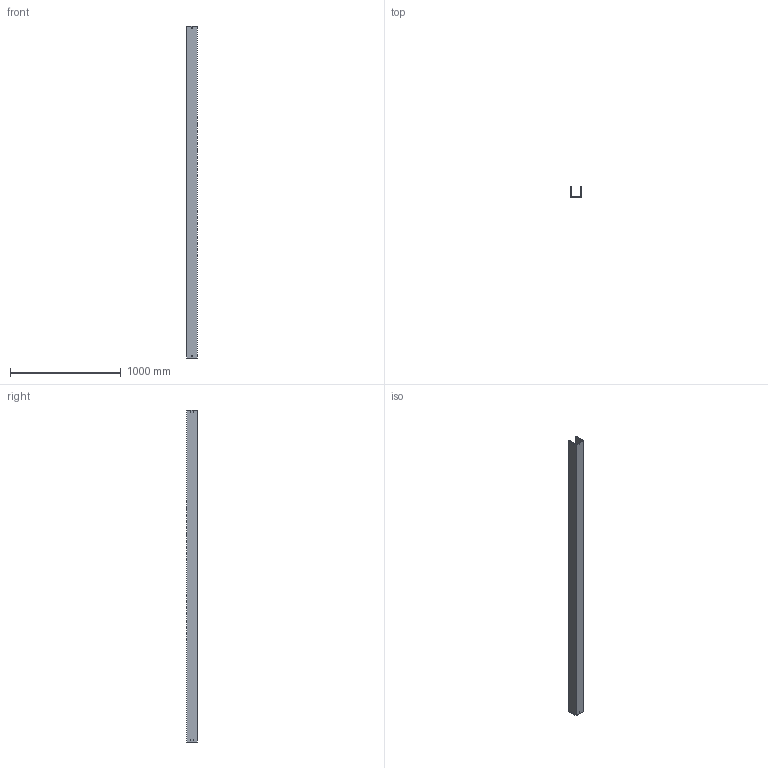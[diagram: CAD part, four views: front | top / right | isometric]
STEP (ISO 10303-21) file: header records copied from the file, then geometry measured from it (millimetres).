
FILE_DESCRIPTION (( 'STEP AP214' ), '1' );
FILE_NAME ('03B3I092.step', '2025-02-21T10:27:14', ( '' ), ( '' ), 'SwSTEP 2.0', 'SolidWorks 2023', '' );
FILE_SCHEMA (( 'AUTOMOTIVE_DESIGN' ));
Length unit declared in the file: millimetre
Products named in the file (1): 03B3I092
Bounding box: 92.5 x 92.5 x 3000 mm (x, y, z)
Volume: 2837880.5 mm3; surface area: 1645708.5 mm2
Topology: 1 solids, 1 shells, 50 faces, 144 edges, 96 vertices
Faces by surface type: plane 50
Entity records: 1671 total; most frequent: CARTESIAN_POINT 291, ORIENTED_EDGE 288, DIRECTION 246, LINE 144, VECTOR 144, EDGE_CURVE 144, VERTEX_POINT 96, EDGE_LOOP 70
